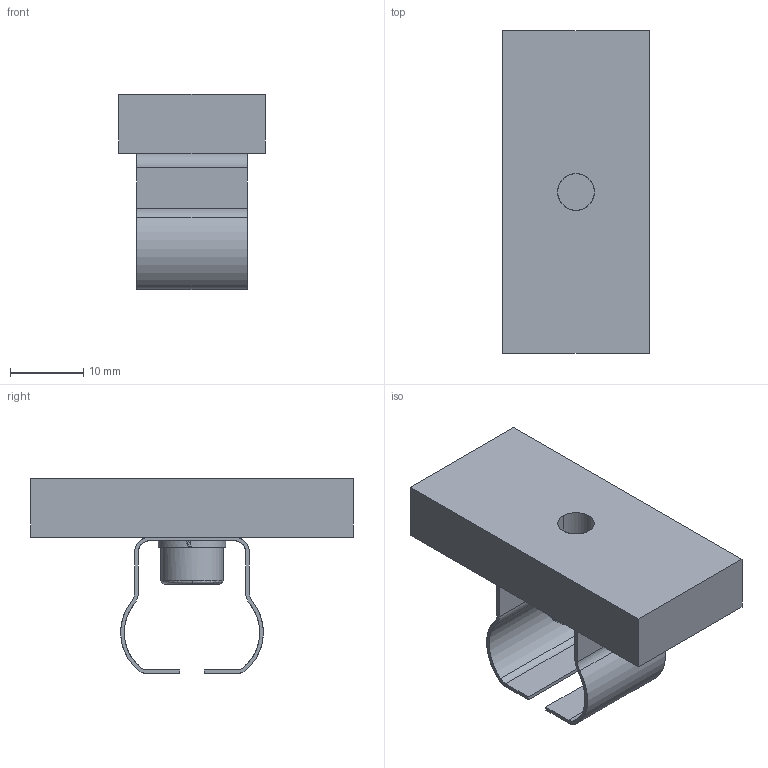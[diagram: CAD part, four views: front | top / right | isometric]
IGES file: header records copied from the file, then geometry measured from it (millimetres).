
Start section: SolidWorks IGES file using analytic representation for surfaces
Global section: file name: X:\11_SW2020-Inv2020\00_全2021-11新製品まで\m\MR-P-J1\mr-p-j1.IGS; native system: SolidWorks 2020; preprocessor: SolidWorks 2020; author: ImaoCorp; date: 211026.114620; units: millimetre
Bounding box: 20 x 44 x 26.59 mm (x, y, z)
Surface area: 5142.3 mm2 (no closed solid volume)
Topology: 0 solids, 0 shells, 73 faces, 929 edges, 925 vertices
Faces by surface type: bspline 41, revolution 32
